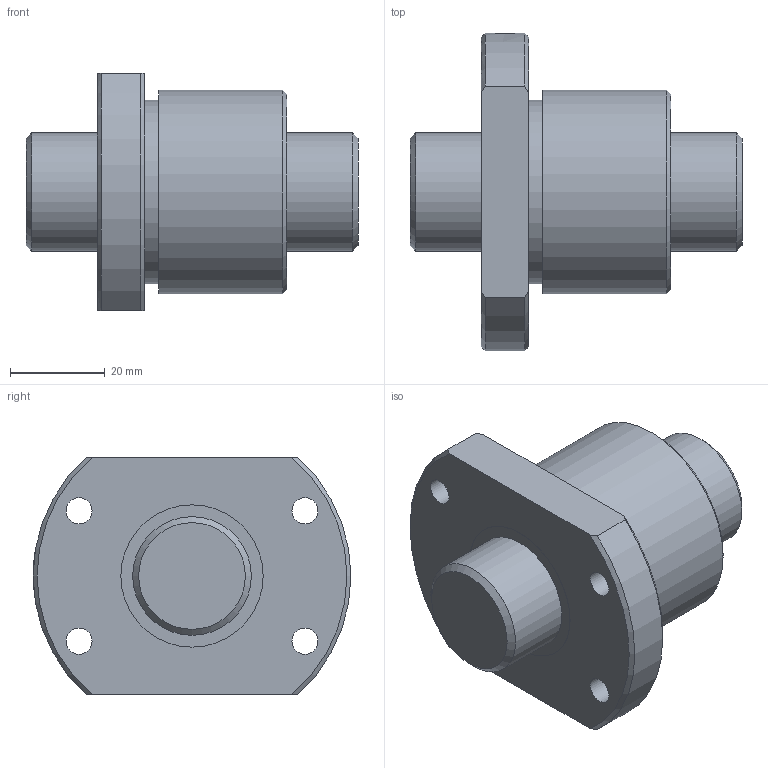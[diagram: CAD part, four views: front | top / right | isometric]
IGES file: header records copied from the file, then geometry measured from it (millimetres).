
Start section: Data from Parasolid IGES Translator 26.0.171, Copyright(c) 2006 Siemens PLM Software. All Rights Reserved.
Global section: file name: BTK2505V-2.6ZZ+70LC7T_000.igs; native system: By Siemens PLM Incorporated; preprocessor: XPlus GENERIC/IGES 26.0.171; author: Noname; organization: Noname; date: 20250116.075601; units: millimetre
Bounding box: 70 x 67 x 50 mm (x, y, z)
Surface area: 21718.8 mm2 (no closed solid volume)
Topology: 0 solids, 0 shells, 31 faces, 136 edges, 117 vertices
Faces by surface type: revolution 21, extrusion 10
